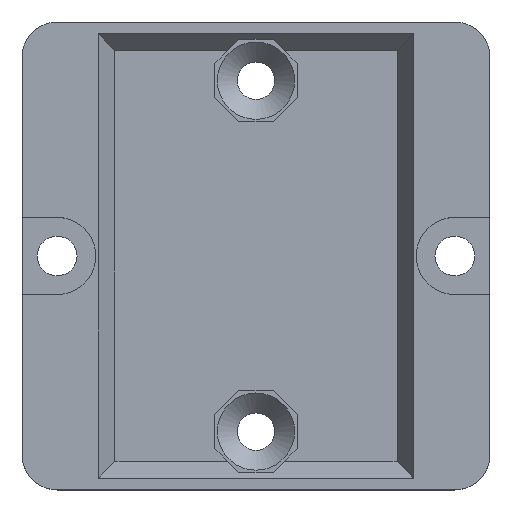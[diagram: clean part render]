
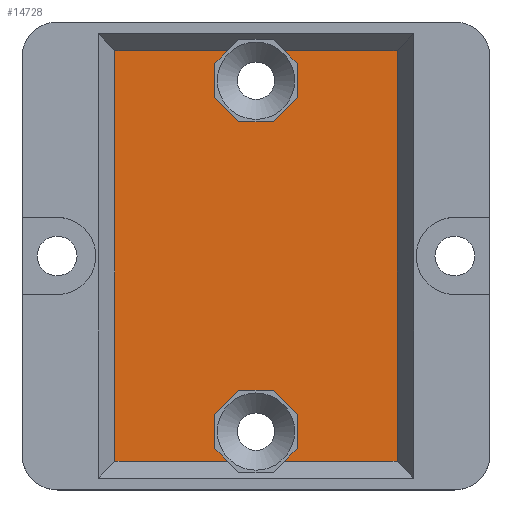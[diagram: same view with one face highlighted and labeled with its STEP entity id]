
A CAD part, top view. The second image highlights one B-rep face of the part: STEP entity #14728.
In plain terms, the highlighted planar face has unit normal (0, 0, 1).
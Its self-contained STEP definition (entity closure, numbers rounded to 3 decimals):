
#13998=CARTESIAN_POINT('',(1.46,-11.475,5.0));
#13999=VERTEX_POINT('',#13998);
#14000=CARTESIAN_POINT('',(3.525,-13.54,5.0));
#14001=VERTEX_POINT('',#14000);
#14002=CARTESIAN_POINT('',(1.46,-11.475,5.0));
#14003=DIRECTION('',(0.707,-0.707,0.0));
#14004=VECTOR('',#14003,2.92);
#14005=LINE('',#14002,#14004);
#14006=EDGE_CURVE('',#13999,#14001,#14005,.T.);
#14038=CARTESIAN_POINT('',(3.525,-16.46,5.0));
#14039=VERTEX_POINT('',#14038);
#14040=CARTESIAN_POINT('',(3.525,-13.54,5.0));
#14041=DIRECTION('',(0.0,-1.0,0.0));
#14042=VECTOR('',#14041,2.92);
#14043=LINE('',#14040,#14042);
#14044=EDGE_CURVE('',#14001,#14039,#14043,.T.);
#14069=CARTESIAN_POINT('',(2.428,-17.557,5.0));
#14070=VERTEX_POINT('',#14069);
#14071=CARTESIAN_POINT('',(3.525,-16.46,5.0));
#14072=DIRECTION('',(-0.707,-0.707,0.0));
#14073=VECTOR('',#14072,1.551);
#14074=LINE('',#14071,#14073);
#14075=EDGE_CURVE('',#14039,#14070,#14074,.T.);
#14139=CARTESIAN_POINT('',(-1.46,-11.475,5.0));
#14140=VERTEX_POINT('',#14139);
#14141=CARTESIAN_POINT('',(-1.46,-11.475,5.0));
#14142=DIRECTION('',(1.0,0.0,0.0));
#14143=VECTOR('',#14142,2.92);
#14144=LINE('',#14141,#14143);
#14145=EDGE_CURVE('',#14140,#13999,#14144,.T.);
#14170=CARTESIAN_POINT('',(-3.525,-13.54,5.0));
#14171=VERTEX_POINT('',#14170);
#14172=CARTESIAN_POINT('',(-3.525,-13.54,5.0));
#14173=DIRECTION('',(0.707,0.707,0.0));
#14174=VECTOR('',#14173,2.92);
#14175=LINE('',#14172,#14174);
#14176=EDGE_CURVE('',#14171,#14140,#14175,.T.);
#14201=CARTESIAN_POINT('',(-3.525,-16.46,5.0));
#14202=VERTEX_POINT('',#14201);
#14203=CARTESIAN_POINT('',(-3.525,-16.46,5.0));
#14204=DIRECTION('',(0.0,1.0,0.0));
#14205=VECTOR('',#14204,2.92);
#14206=LINE('',#14203,#14205);
#14207=EDGE_CURVE('',#14202,#14171,#14206,.T.);
#14232=CARTESIAN_POINT('',(-2.428,-17.557,5.0));
#14233=VERTEX_POINT('',#14232);
#14234=CARTESIAN_POINT('',(-2.428,-17.557,5.0));
#14235=DIRECTION('',(-0.707,0.707,0.0));
#14236=VECTOR('',#14235,1.551);
#14237=LINE('',#14234,#14236);
#14238=EDGE_CURVE('',#14233,#14202,#14237,.T.);
#14281=CARTESIAN_POINT('',(-1.46,11.475,5.0));
#14282=VERTEX_POINT('',#14281);
#14283=CARTESIAN_POINT('',(-3.525,13.54,5.0));
#14284=VERTEX_POINT('',#14283);
#14285=CARTESIAN_POINT('',(-1.46,11.475,5.0));
#14286=DIRECTION('',(-0.707,0.707,0.0));
#14287=VECTOR('',#14286,2.92);
#14288=LINE('',#14285,#14287);
#14289=EDGE_CURVE('',#14282,#14284,#14288,.T.);
#14321=CARTESIAN_POINT('',(-3.525,16.46,5.0));
#14322=VERTEX_POINT('',#14321);
#14323=CARTESIAN_POINT('',(-3.525,13.54,5.0));
#14324=DIRECTION('',(0.0,1.0,0.0));
#14325=VECTOR('',#14324,2.92);
#14326=LINE('',#14323,#14325);
#14327=EDGE_CURVE('',#14284,#14322,#14326,.T.);
#14352=CARTESIAN_POINT('',(-2.428,17.557,5.0));
#14353=VERTEX_POINT('',#14352);
#14354=CARTESIAN_POINT('',(-3.525,16.46,5.0));
#14355=DIRECTION('',(0.707,0.707,0.0));
#14356=VECTOR('',#14355,1.551);
#14357=LINE('',#14354,#14356);
#14358=EDGE_CURVE('',#14322,#14353,#14357,.T.);
#14422=CARTESIAN_POINT('',(3.525,16.46,5.0));
#14423=VERTEX_POINT('',#14422);
#14424=CARTESIAN_POINT('',(3.525,13.54,5.0));
#14425=VERTEX_POINT('',#14424);
#14426=CARTESIAN_POINT('',(3.525,16.46,5.0));
#14427=DIRECTION('',(0.0,-1.0,0.0));
#14428=VECTOR('',#14427,2.92);
#14429=LINE('',#14426,#14428);
#14430=EDGE_CURVE('',#14423,#14425,#14429,.T.);
#14462=CARTESIAN_POINT('',(2.428,17.557,5.0));
#14463=VERTEX_POINT('',#14462);
#14464=CARTESIAN_POINT('',(2.428,17.557,5.0));
#14465=DIRECTION('',(0.707,-0.707,0.0));
#14466=VECTOR('',#14465,1.551);
#14467=LINE('',#14464,#14466);
#14468=EDGE_CURVE('',#14463,#14423,#14467,.T.);
#14492=CARTESIAN_POINT('',(1.46,11.475,5.0));
#14493=VERTEX_POINT('',#14492);
#14494=CARTESIAN_POINT('',(1.46,11.475,5.0));
#14495=DIRECTION('',(-1.0,0.0,0.0));
#14496=VECTOR('',#14495,2.92);
#14497=LINE('',#14494,#14496);
#14498=EDGE_CURVE('',#14493,#14282,#14497,.T.);
#14523=CARTESIAN_POINT('',(3.525,13.54,5.0));
#14524=DIRECTION('',(-0.707,-0.707,0.0));
#14525=VECTOR('',#14524,2.92);
#14526=LINE('',#14523,#14525);
#14527=EDGE_CURVE('',#14425,#14493,#14526,.T.);
#14567=CARTESIAN_POINT('',(-12.057,-17.557,5.0));
#14568=VERTEX_POINT('',#14567);
#14569=CARTESIAN_POINT('',(-12.057,-17.557,5.0));
#14570=DIRECTION('',(1.0,0.0,0.0));
#14571=VECTOR('',#14570,9.628);
#14572=LINE('',#14569,#14571);
#14573=EDGE_CURVE('',#14568,#14233,#14572,.T.);
#14591=CARTESIAN_POINT('',(12.057,-17.557,5.0));
#14592=VERTEX_POINT('',#14591);
#14599=CARTESIAN_POINT('',(2.428,-17.557,5.0));
#14600=DIRECTION('',(1.0,0.0,0.0));
#14601=VECTOR('',#14600,9.628);
#14602=LINE('',#14599,#14601);
#14603=EDGE_CURVE('',#14070,#14592,#14602,.T.);
#14616=CARTESIAN_POINT('',(12.057,17.557,5.0));
#14617=VERTEX_POINT('',#14616);
#14618=CARTESIAN_POINT('',(12.057,17.557,5.0));
#14619=DIRECTION('',(-1.0,0.0,0.0));
#14620=VECTOR('',#14619,9.628);
#14621=LINE('',#14618,#14620);
#14622=EDGE_CURVE('',#14617,#14463,#14621,.T.);
#14640=CARTESIAN_POINT('',(-12.057,17.557,5.0));
#14641=VERTEX_POINT('',#14640);
#14648=CARTESIAN_POINT('',(-2.428,17.557,5.0));
#14649=DIRECTION('',(-1.0,0.0,0.0));
#14650=VECTOR('',#14649,9.628);
#14651=LINE('',#14648,#14650);
#14652=EDGE_CURVE('',#14353,#14641,#14651,.T.);
#14662=CARTESIAN_POINT('',(-12.057,17.557,5.0));
#14663=DIRECTION('',(0.0,-1.0,0.0));
#14664=VECTOR('',#14663,35.113);
#14665=LINE('',#14662,#14664);
#14666=EDGE_CURVE('',#14641,#14568,#14665,.T.);
#14684=CARTESIAN_POINT('',(12.057,-17.557,5.0));
#14685=DIRECTION('',(0.0,1.0,0.0));
#14686=VECTOR('',#14685,35.113);
#14687=LINE('',#14684,#14686);
#14688=EDGE_CURVE('',#14592,#14617,#14687,.T.);
#14701=CARTESIAN_POINT('',(0.0,0.,5.0));
#14702=DIRECTION('',(0.0,0.0,1.0));
#14703=DIRECTION('',(1.0,0.0,0.0));
#14704=AXIS2_PLACEMENT_3D('',#14701,#14702,#14703);
#14705=PLANE('',#14704);
#14706=ORIENTED_EDGE('',*,*,#14075,.T.);
#14707=ORIENTED_EDGE('',*,*,#14603,.T.);
#14708=ORIENTED_EDGE('',*,*,#14688,.T.);
#14709=ORIENTED_EDGE('',*,*,#14622,.T.);
#14710=ORIENTED_EDGE('',*,*,#14468,.T.);
#14711=ORIENTED_EDGE('',*,*,#14430,.T.);
#14712=ORIENTED_EDGE('',*,*,#14527,.T.);
#14713=ORIENTED_EDGE('',*,*,#14498,.T.);
#14714=ORIENTED_EDGE('',*,*,#14289,.T.);
#14715=ORIENTED_EDGE('',*,*,#14327,.T.);
#14716=ORIENTED_EDGE('',*,*,#14358,.T.);
#14717=ORIENTED_EDGE('',*,*,#14652,.T.);
#14718=ORIENTED_EDGE('',*,*,#14666,.T.);
#14719=ORIENTED_EDGE('',*,*,#14573,.T.);
#14720=ORIENTED_EDGE('',*,*,#14238,.T.);
#14721=ORIENTED_EDGE('',*,*,#14207,.T.);
#14722=ORIENTED_EDGE('',*,*,#14176,.T.);
#14723=ORIENTED_EDGE('',*,*,#14145,.T.);
#14724=ORIENTED_EDGE('',*,*,#14006,.T.);
#14725=ORIENTED_EDGE('',*,*,#14044,.T.);
#14726=EDGE_LOOP('',(#14706,#14707,#14708,#14709,#14710,#14711,#14712,#14713,#14714,#14715,#14716,#14717,#14718,#14719,#14720,#14721,#14722,#14723,#14724,#14725));
#14727=FACE_OUTER_BOUND('',#14726,.T.);
#14728=ADVANCED_FACE('',(#14727),#14705,.T.);
